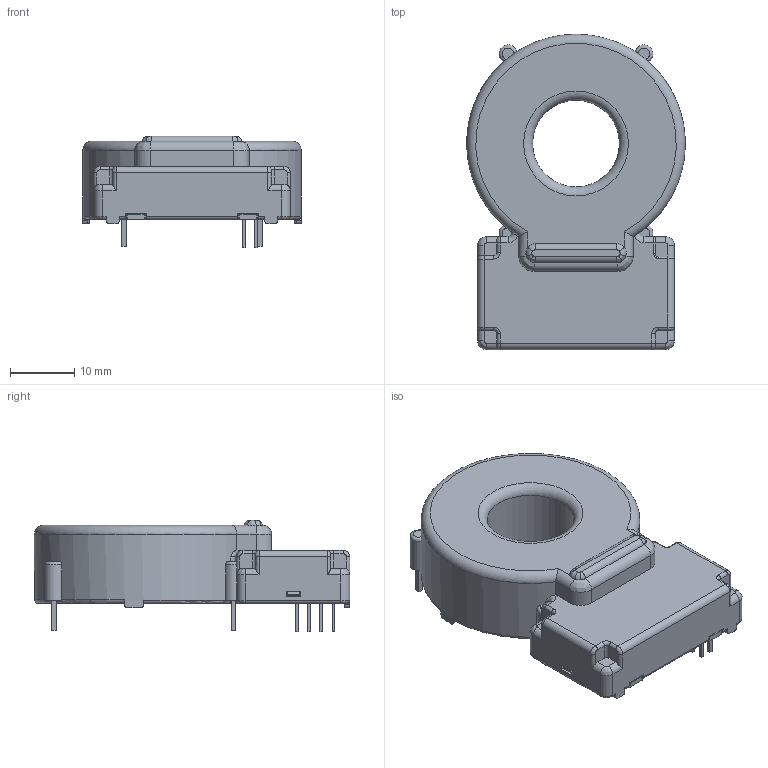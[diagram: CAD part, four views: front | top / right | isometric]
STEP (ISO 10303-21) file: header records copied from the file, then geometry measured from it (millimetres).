
FILE_DESCRIPTION (( 'STEP AP214' ), '1' );
FILE_NAME ('RCMB121.STEP', '2016-05-24T04:38:21', ( 'User' ), ( 'Bender' ), 'SwSTEP 2.0', 'SolidWorks 2016', '' );
FILE_SCHEMA (( 'AUTOMOTIVE_DESIGN' ));
Length unit declared in the file: millimetre
Products named in the file (6): B4406-C225_F372_Haltestifte_Sensor_K26574; B4406-C225_F372_Geh_X_E4use_Neu_LP_Ausgelagert; RCMB121; A34652507-AA_Pin_lang; B4406-C224_F371_Bodenplatte_Sensor_K26574; B4406-C225_F372_LC_Sensor_Geh_X_E4use_mit_pins
Assembly tree (5 placements, depth 3):
  RCMB121
    B4406-C225_F372_LC_Sensor_Geh_X_E4use_mit_pins
      B4406-C225_F372_Geh_X_E4use_Neu_LP_Ausgelagert
      B4406-C225_F372_Haltestifte_Sensor_K26574
    B4406-C224_F371_Bodenplatte_Sensor_K26574
    A34652507-AA_Pin_lang
Bounding box: 34 x 49.05 x 17.35 mm (x, y, z)
Volume: 4159.9 mm3; surface area: 9725.8 mm2
Topology: 14 solids, 14 shells, 1127 faces, 3086 edges, 1995 vertices
Faces by surface type: plane 540, bspline 302, cylinder 202, torus 61, cone 14, sphere 8
Full cylindrical faces by diameter (mm): 0.8 x4, 1.2 x8, 1.4 x2, 1.5 x2, 13.5 x1, 15.3 x2
Entity records: 51616 total; most frequent: CARTESIAN_POINT 12343, ORIENTED_EDGE 6078, DIRECTION 4494, EDGE_CURVE 3039, VERTEX_POINT 1981, LINE 1878, VECTOR 1878, AXIS2_PLACEMENT_3D 1308
